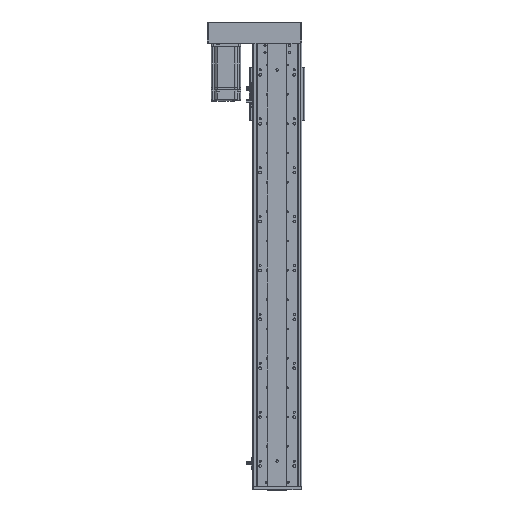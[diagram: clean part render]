
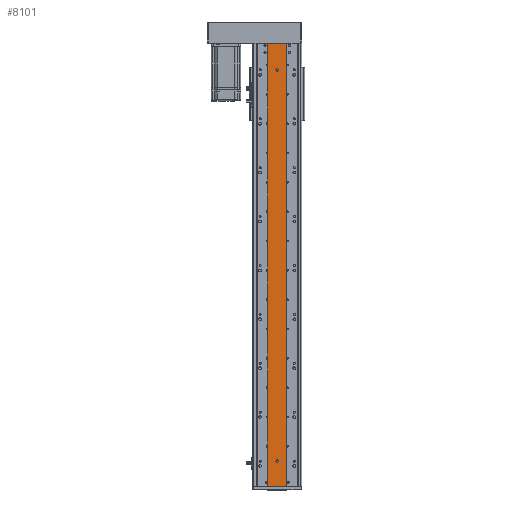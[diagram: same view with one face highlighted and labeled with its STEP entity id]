
A CAD part, top view. The second image highlights one B-rep face of the part: STEP entity #8101.
In plain terms, the highlighted planar face has unit normal (0, 0, 1).
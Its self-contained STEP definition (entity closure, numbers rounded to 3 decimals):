
#3524 = AXIS2_PLACEMENT_3D ( 'NONE', #37100, #37083, #37089 ) ;
#3541 = AXIS2_PLACEMENT_3D ( 'NONE', #37069, #37097, #37087 ) ;
#4123 = AXIS2_PLACEMENT_3D ( 'NONE', #46472, #46509, #46477 ) ;
#4143 = AXIS2_PLACEMENT_3D ( 'NONE', #46500, #46479, #46501 ) ;
#4224 = VERTEX_POINT ( 'NONE', #46964 ) ;
#4232 = VERTEX_POINT ( 'NONE', #48614 ) ;
#4355 = VERTEX_POINT ( 'NONE', #47569 ) ;
#4390 = VERTEX_POINT ( 'NONE', #47586 ) ;
#5943 = FACE_OUTER_BOUND ( 'NONE', #8992, .T. ) ;
#5967 = FACE_BOUND ( 'NONE', #8961, .T. ) ;
#5971 = FACE_BOUND ( 'NONE', #8957, .T. ) ;
#8101 = ADVANCED_FACE ( 'NONE', ( #5967, #5971, #5943 ), #34213, .F. ) ;
#8957 = EDGE_LOOP ( 'NONE', ( #48708, #48709 ) ) ;
#8961 = EDGE_LOOP ( 'NONE', ( #44229, #44246 ) ) ;
#8992 = EDGE_LOOP ( 'NONE', ( #48694, #48770, #48700, #48726 ) ) ;
#12170 = AXIS2_PLACEMENT_3D ( 'NONE', #34237, #34206, #34257 ) ;
#13950 = VERTEX_POINT ( 'NONE', #16731 ) ;
#13988 = VERTEX_POINT ( 'NONE', #16709 ) ;
#14008 = VERTEX_POINT ( 'NONE', #16858 ) ;
#14013 = VERTEX_POINT ( 'NONE', #16841 ) ;
#16709 = CARTESIAN_POINT ( 'NONE',  ( -10628.579, 51., -17040.86 ) ) ;
#16731 = CARTESIAN_POINT ( 'NONE',  ( -10623.579, 851., -17040.86 ) ) ;
#16841 = CARTESIAN_POINT ( 'NONE',  ( -10628.579, 851., -17040.86 ) ) ;
#16858 = CARTESIAN_POINT ( 'NONE',  ( -10623.579, 51., -17040.86 ) ) ;
#21155 = EDGE_CURVE ( 'NONE', #13950, #14013, #50807, .T. ) ;
#21160 = EDGE_CURVE ( 'NONE', #14008, #13988, #50810, .T. ) ;
#21497 = LINE ( 'NONE', #46564, #21506 ) ;
#21506 = VECTOR ( 'NONE', #46578, 1000. ) ;
#21559 = VECTOR ( 'NONE', #46563, 1000. ) ;
#22823 = CIRCLE ( 'NONE', #4123, 2.5 ) ;
#22829 = CIRCLE ( 'NONE', #4143, 2.5 ) ;
#22874 = VECTOR ( 'NONE', #46550, 1000. ) ;
#22881 = VECTOR ( 'NONE', #46513, 1000. ) ;
#22897 = LINE ( 'NONE', #46557, #22874 ) ;
#22900 = LINE ( 'NONE', #46576, #21559 ) ;
#22907 = LINE ( 'NONE', #46520, #22881 ) ;
#34206 = DIRECTION ( 'NONE',  ( 0., 0., -1. ) ) ;
#34213 = PLANE ( 'NONE',  #12170 ) ;
#34237 = CARTESIAN_POINT ( 'NONE',  ( -10645.079, 906., -17040.86 ) ) ;
#34257 = DIRECTION ( 'NONE',  ( -1., 0., 0. ) ) ;
#37069 = CARTESIAN_POINT ( 'NONE',  ( -10626.079, 51., -17040.86 ) ) ;
#37083 = DIRECTION ( 'NONE',  ( 0., 0., -1. ) ) ;
#37087 = DIRECTION ( 'NONE',  ( -1., 0., 0. ) ) ;
#37089 = DIRECTION ( 'NONE',  ( -1., 0., 0. ) ) ;
#37097 = DIRECTION ( 'NONE',  ( 0., 0., -1. ) ) ;
#37100 = CARTESIAN_POINT ( 'NONE',  ( -10626.079, 851., -17040.86 ) ) ;
#38465 = EDGE_CURVE ( 'NONE', #14013, #13950, #22823, .T. ) ;
#38466 = EDGE_CURVE ( 'NONE', #13988, #14008, #22829, .T. ) ;
#38478 = EDGE_CURVE ( 'NONE', #4224, #4232, #22907, .T. ) ;
#38496 = EDGE_CURVE ( 'NONE', #4390, #4232, #22897, .T. ) ;
#38499 = EDGE_CURVE ( 'NONE', #4355, #4390, #22900, .T. ) ;
#38504 = EDGE_CURVE ( 'NONE', #4355, #4224, #21497, .T. ) ;
#44229 = ORIENTED_EDGE ( 'NONE', *, *, #21155, .T. ) ;
#44246 = ORIENTED_EDGE ( 'NONE', *, *, #38465, .T. ) ;
#46472 = CARTESIAN_POINT ( 'NONE',  ( -10626.079, 851., -17040.86 ) ) ;
#46477 = DIRECTION ( 'NONE',  ( -1., 0., 0. ) ) ;
#46479 = DIRECTION ( 'NONE',  ( 0., 0., -1. ) ) ;
#46500 = CARTESIAN_POINT ( 'NONE',  ( -10626.079, 51., -17040.86 ) ) ;
#46501 = DIRECTION ( 'NONE',  ( -1., 0., 0. ) ) ;
#46509 = DIRECTION ( 'NONE',  ( 0., 0., -1. ) ) ;
#46513 = DIRECTION ( 'NONE',  ( 1., 0., 0. ) ) ;
#46520 = CARTESIAN_POINT ( 'NONE',  ( -10645.079, 0., -17040.86 ) ) ;
#46550 = DIRECTION ( 'NONE',  ( 0., -1., 0. ) ) ;
#46557 = CARTESIAN_POINT ( 'NONE',  ( -10607.079, 906., -17040.86 ) ) ;
#46563 = DIRECTION ( 'NONE',  ( 1., 0., 0. ) ) ;
#46564 = CARTESIAN_POINT ( 'NONE',  ( -10645.079, 906., -17040.86 ) ) ;
#46576 = CARTESIAN_POINT ( 'NONE',  ( -10645.079, 906., -17040.86 ) ) ;
#46578 = DIRECTION ( 'NONE',  ( 0., -1., 0. ) ) ;
#46964 = CARTESIAN_POINT ( 'NONE',  ( -10645.079, 0., -17040.86 ) ) ;
#47569 = CARTESIAN_POINT ( 'NONE',  ( -10645.079, 906., -17040.86 ) ) ;
#47586 = CARTESIAN_POINT ( 'NONE',  ( -10607.079, 906., -17040.86 ) ) ;
#48614 = CARTESIAN_POINT ( 'NONE',  ( -10607.079, 0., -17040.86 ) ) ;
#48694 = ORIENTED_EDGE ( 'NONE', *, *, #38478, .T. ) ;
#48700 = ORIENTED_EDGE ( 'NONE', *, *, #38499, .F. ) ;
#48708 = ORIENTED_EDGE ( 'NONE', *, *, #21160, .T. ) ;
#48709 = ORIENTED_EDGE ( 'NONE', *, *, #38466, .T. ) ;
#48726 = ORIENTED_EDGE ( 'NONE', *, *, #38504, .T. ) ;
#48770 = ORIENTED_EDGE ( 'NONE', *, *, #38496, .F. ) ;
#50807 = CIRCLE ( 'NONE', #3524, 2.5 ) ;
#50810 = CIRCLE ( 'NONE', #3541, 2.5 ) ;
